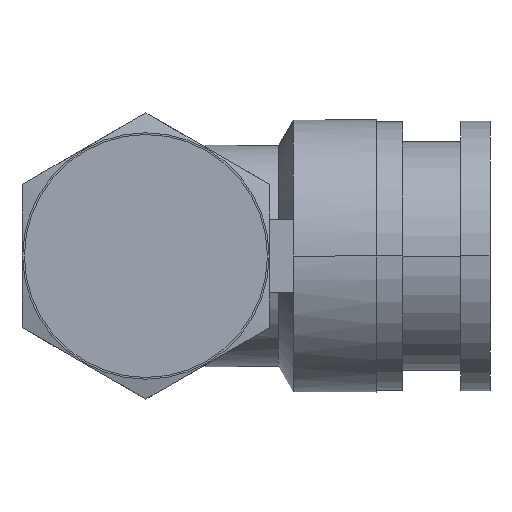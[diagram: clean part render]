
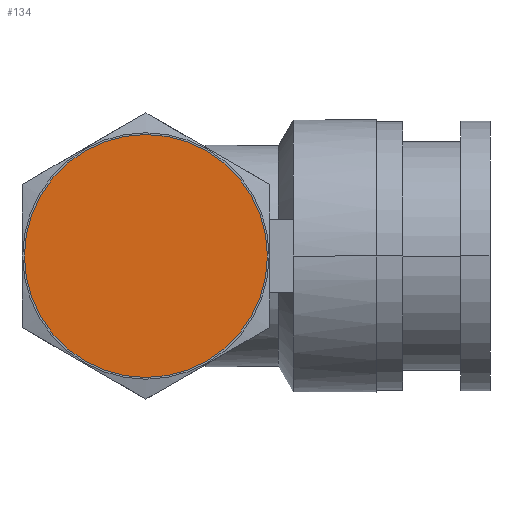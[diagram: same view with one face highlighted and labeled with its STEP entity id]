
A CAD part, front view. The second image highlights one B-rep face of the part: STEP entity #134.
In plain terms, the highlighted planar face has unit normal (0, -1, 0).
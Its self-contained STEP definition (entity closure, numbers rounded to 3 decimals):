
#134 = ADVANCED_FACE( '', ( #261 ), #262, .T. );
#261 = FACE_OUTER_BOUND( '', #388, .T. );
#262 = PLANE( '', #389 );
#388 = EDGE_LOOP( '', ( #853, #854 ) );
#389 = AXIS2_PLACEMENT_3D( '', #855, #856, #857 );
#853 = ORIENTED_EDGE( '', *, *, #861, .T. );
#854 = ORIENTED_EDGE( '', *, *, #1001, .T. );
#855 = CARTESIAN_POINT( '', ( -4.166, -5.15, 0. ) );
#856 = DIRECTION( '', ( 0., -1., 0. ) );
#857 = DIRECTION( '', ( -1., 0., 0. ) );
#861 = EDGE_CURVE( '', #1003, #1007, #1009, .T. );
#1001 = EDGE_CURVE( '', #1007, #1003, #1238, .T. );
#1003 = VERTEX_POINT( '', #1240 );
#1007 = VERTEX_POINT( '', #1245 );
#1009 = CIRCLE( '', #1248, 8.331 );
#1238 = CIRCLE( '', #1817, 8.331 );
#1240 = CARTESIAN_POINT( '', ( -8.331, -5.15, 0. ) );
#1245 = CARTESIAN_POINT( '', ( 8.331, -5.15, 0. ) );
#1248 = AXIS2_PLACEMENT_3D( '', #1823, #1824, #1825 );
#1817 = AXIS2_PLACEMENT_3D( '', #2041, #2042, #2043 );
#1823 = CARTESIAN_POINT( '', ( 0., -5.15, 0. ) );
#1824 = DIRECTION( '', ( 0., -1., 0. ) );
#1825 = DIRECTION( '', ( -1., 0., 0. ) );
#2041 = CARTESIAN_POINT( '', ( 0., -5.15, 0. ) );
#2042 = DIRECTION( '', ( 0., -1., 0. ) );
#2043 = DIRECTION( '', ( -1., 0., 0. ) );
